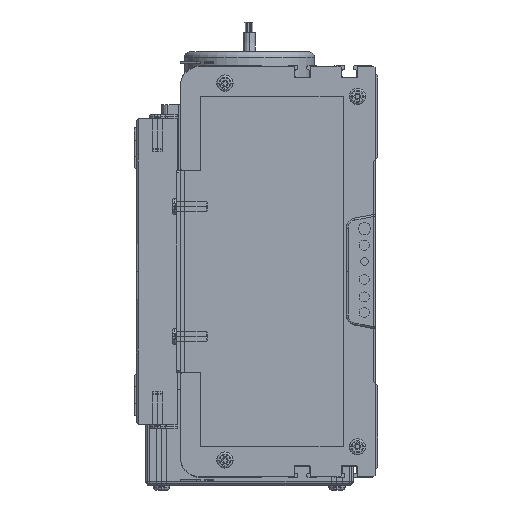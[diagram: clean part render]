
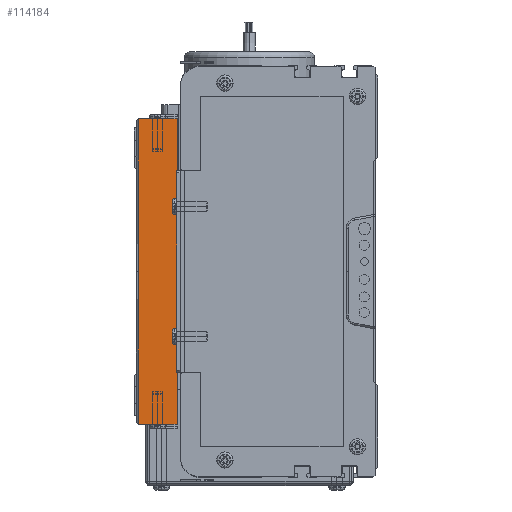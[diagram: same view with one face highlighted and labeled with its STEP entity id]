
A CAD part, left-side view. The second image highlights one B-rep face of the part: STEP entity #114184.
In plain terms, the highlighted planar face has unit normal (-1, 0, 0).
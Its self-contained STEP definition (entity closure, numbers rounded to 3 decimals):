
#6241 = CARTESIAN_POINT ( 'NONE',  ( 0., 19., 75. ) ) ;
#6250 = LINE ( 'NONE', #6328, #6495 ) ;
#6326 = DIRECTION ( 'NONE',  ( 0., -1., 0. ) ) ;
#6328 = CARTESIAN_POINT ( 'NONE',  ( 0., 20., 75. ) ) ;
#6495 = VECTOR ( 'NONE', #6326, 1000. ) ;
#6917 = CARTESIAN_POINT ( 'NONE',  ( 0., 0., -75. ) ) ;
#6950 = CARTESIAN_POINT ( 'NONE',  ( 0., 0., 75. ) ) ;
#6981 = DIRECTION ( 'NONE',  ( 0., 0., 1. ) ) ;
#6982 = VECTOR ( 'NONE', #6981, 1000. ) ;
#6983 = CARTESIAN_POINT ( 'NONE',  ( 0., 0., 0. ) ) ;
#6984 = LINE ( 'NONE', #6983, #6982 ) ;
#47621 = CARTESIAN_POINT ( 'NONE',  ( 0., 19., -75. ) ) ;
#47767 = DIRECTION ( 'NONE',  ( 0., 0., -1. ) ) ;
#47770 = VECTOR ( 'NONE', #47767, 1000. ) ;
#47775 = CARTESIAN_POINT ( 'NONE',  ( 0., 19., 0. ) ) ;
#47777 = LINE ( 'NONE', #47775, #47770 ) ;
#47786 = DIRECTION ( 'NONE',  ( 0., 0., -1. ) ) ;
#47788 = VECTOR ( 'NONE', #47786, 1000. ) ;
#47790 = CARTESIAN_POINT ( 'NONE',  ( 0., 19., 0. ) ) ;
#47792 = LINE ( 'NONE', #47790, #47788 ) ;
#48045 = CARTESIAN_POINT ( 'NONE',  ( 0., 20., 0. ) ) ;
#48047 = AXIS2_PLACEMENT_3D ( 'NONE', #48045, #48210, #48209 ) ;
#48071 = FACE_OUTER_BOUND ( 'NONE', #114026, .T. ) ;
#48092 = PLANE ( 'NONE',  #48047 ) ;
#48209 = DIRECTION ( 'NONE',  ( 0., 0., -1. ) ) ;
#48210 = DIRECTION ( 'NONE',  ( 1., 0., 0. ) ) ;
#72750 = EDGE_CURVE ( 'NONE', #72753, #73170, #6250, .T. ) ;
#72753 = VERTEX_POINT ( 'NONE', #6241 ) ;
#73170 = VERTEX_POINT ( 'NONE', #6950 ) ;
#73172 = EDGE_CURVE ( 'NONE', #73173, #73170, #6984, .T. ) ;
#73173 = VERTEX_POINT ( 'NONE', #6917 ) ;
#113992 = EDGE_CURVE ( 'NONE', #114103, #73173, #162343, .T. ) ;
#113994 = ORIENTED_EDGE ( 'NONE', *, *, #114105, .T. ) ;
#114024 = ORIENTED_EDGE ( 'NONE', *, *, #113992, .T. ) ;
#114025 = VERTEX_POINT ( 'NONE', #162493 ) ;
#114026 = EDGE_LOOP ( 'NONE', ( #114185, #114106, #113994, #114024, #114035 ) ) ;
#114035 = ORIENTED_EDGE ( 'NONE', *, *, #73172, .T. ) ;
#114102 = EDGE_CURVE ( 'NONE', #72753, #114025, #47792, .T. ) ;
#114103 = VERTEX_POINT ( 'NONE', #47621 ) ;
#114105 = EDGE_CURVE ( 'NONE', #114025, #114103, #47777, .T. ) ;
#114106 = ORIENTED_EDGE ( 'NONE', *, *, #114102, .T. ) ;
#114184 = ADVANCED_FACE ( 'NONE', ( #48071 ), #48092, .F. ) ;
#114185 = ORIENTED_EDGE ( 'NONE', *, *, #72750, .F. ) ;
#162343 = LINE ( 'NONE', #162358, #162468 ) ;
#162357 = DIRECTION ( 'NONE',  ( 0., -1., 0. ) ) ;
#162358 = CARTESIAN_POINT ( 'NONE',  ( 0., 20., -75. ) ) ;
#162468 = VECTOR ( 'NONE', #162357, 1000. ) ;
#162493 = CARTESIAN_POINT ( 'NONE',  ( 0., 19., 0. ) ) ;
